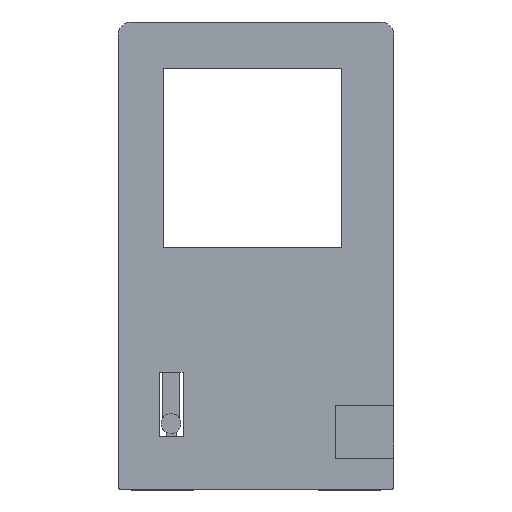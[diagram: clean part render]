
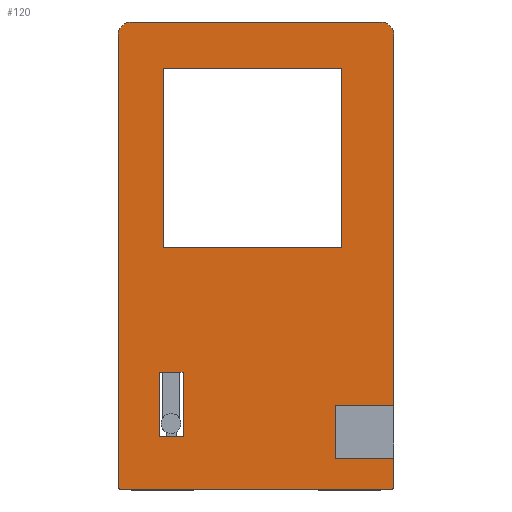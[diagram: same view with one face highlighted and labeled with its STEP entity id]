
A CAD part, top view. The second image highlights one B-rep face of the part: STEP entity #120.
In plain terms, the highlighted planar face has unit normal (0, 0, 1).
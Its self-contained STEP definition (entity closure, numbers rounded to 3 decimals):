
#24 = VERTEX_POINT('',#25);
#25 = CARTESIAN_POINT('',(16.8,-117.8,15.));
#72 = VERTEX_POINT('',#73);
#73 = CARTESIAN_POINT('',(9.5,-117.8,15.));
#79 = EDGE_CURVE('',#24,#72,#80,.T.);
#80 = LINE('',#81,#82);
#81 = CARTESIAN_POINT('',(24.25,-117.8,15.));
#82 = VECTOR('',#83,1.);
#83 = DIRECTION('',(-1.,0.,0.));
#103 = VERTEX_POINT('',#104);
#104 = CARTESIAN_POINT('',(16.8,-98.2,15.));
#110 = EDGE_CURVE('',#24,#103,#111,.T.);
#111 = LINE('',#112,#113);
#112 = CARTESIAN_POINT('',(16.8,-90.502,15.));
#113 = VECTOR('',#114,1.);
#114 = DIRECTION('',(0.,1.,0.));
#120 = ADVANCED_FACE('',(#121,#223,#257),#275,.T.);
#121 = FACE_BOUND('',#122,.T.);
#122 = EDGE_LOOP('',(#123,#133,#142,#150,#159,#167,#175,#183,#191,#199,
    #208,#216));
#123 = ORIENTED_EDGE('',*,*,#124,.F.);
#124 = EDGE_CURVE('',#125,#127,#129,.T.);
#125 = VERTEX_POINT('',#126);
#126 = CARTESIAN_POINT('',(-3.,-132.8,15.));
#127 = VERTEX_POINT('',#128);
#128 = CARTESIAN_POINT('',(-3.,4.4,15.));
#129 = LINE('',#130,#131);
#130 = CARTESIAN_POINT('',(-3.,-130.,15.));
#131 = VECTOR('',#132,1.);
#132 = DIRECTION('',(0.,1.,0.));
#133 = ORIENTED_EDGE('',*,*,#134,.T.);
#134 = EDGE_CURVE('',#125,#135,#137,.T.);
#135 = VERTEX_POINT('',#136);
#136 = CARTESIAN_POINT('',(-1.8,-134.,15.));
#137 = CIRCLE('',#138,1.2);
#138 = AXIS2_PLACEMENT_3D('',#139,#140,#141);
#139 = CARTESIAN_POINT('',(-1.8,-132.8,15.));
#140 = DIRECTION('',(0.,0.,1.));
#141 = DIRECTION('',(1.,0.,0.));
#142 = ORIENTED_EDGE('',*,*,#143,.T.);
#143 = EDGE_CURVE('',#135,#144,#146,.T.);
#144 = VERTEX_POINT('',#145);
#145 = CARTESIAN_POINT('',(79.8,-134.,15.));
#146 = LINE('',#147,#148);
#147 = CARTESIAN_POINT('',(-1.8,-134.,15.));
#148 = VECTOR('',#149,1.);
#149 = DIRECTION('',(1.,0.,0.));
#150 = ORIENTED_EDGE('',*,*,#151,.T.);
#151 = EDGE_CURVE('',#144,#152,#154,.T.);
#152 = VERTEX_POINT('',#153);
#153 = CARTESIAN_POINT('',(81.,-132.8,15.));
#154 = CIRCLE('',#155,1.2);
#155 = AXIS2_PLACEMENT_3D('',#156,#157,#158);
#156 = CARTESIAN_POINT('',(79.8,-132.8,15.));
#157 = DIRECTION('',(0.,0.,1.));
#158 = DIRECTION('',(1.,0.,0.));
#159 = ORIENTED_EDGE('',*,*,#160,.T.);
#160 = EDGE_CURVE('',#152,#161,#163,.T.);
#161 = VERTEX_POINT('',#162);
#162 = CARTESIAN_POINT('',(81.,-124.335,15.));
#163 = LINE('',#164,#165);
#164 = CARTESIAN_POINT('',(81.,-132.8,15.));
#165 = VECTOR('',#166,1.);
#166 = DIRECTION('',(0.,1.,0.));
#167 = ORIENTED_EDGE('',*,*,#168,.T.);
#168 = EDGE_CURVE('',#161,#169,#171,.T.);
#169 = VERTEX_POINT('',#170);
#170 = CARTESIAN_POINT('',(63.15,-124.335,15.));
#171 = LINE('',#172,#173);
#172 = CARTESIAN_POINT('',(50.375,-124.335,15.));
#173 = VECTOR('',#174,1.);
#174 = DIRECTION('',(-1.,0.,0.));
#175 = ORIENTED_EDGE('',*,*,#176,.T.);
#176 = EDGE_CURVE('',#169,#177,#179,.T.);
#177 = VERTEX_POINT('',#178);
#178 = CARTESIAN_POINT('',(63.15,-108.335,15.));
#179 = LINE('',#180,#181);
#180 = CARTESIAN_POINT('',(63.15,-125.735,15.));
#181 = VECTOR('',#182,1.);
#182 = DIRECTION('',(0.,1.,0.));
#183 = ORIENTED_EDGE('',*,*,#184,.F.);
#184 = EDGE_CURVE('',#185,#177,#187,.T.);
#185 = VERTEX_POINT('',#186);
#186 = CARTESIAN_POINT('',(81.,-108.335,15.));
#187 = LINE('',#188,#189);
#188 = CARTESIAN_POINT('',(50.375,-108.335,15.));
#189 = VECTOR('',#190,1.);
#190 = DIRECTION('',(-1.,0.,0.));
#191 = ORIENTED_EDGE('',*,*,#192,.T.);
#192 = EDGE_CURVE('',#185,#193,#195,.T.);
#193 = VERTEX_POINT('',#194);
#194 = CARTESIAN_POINT('',(81.,4.4,15.));
#195 = LINE('',#196,#197);
#196 = CARTESIAN_POINT('',(81.,-132.8,15.));
#197 = VECTOR('',#198,1.);
#198 = DIRECTION('',(0.,1.,0.));
#199 = ORIENTED_EDGE('',*,*,#200,.T.);
#200 = EDGE_CURVE('',#193,#201,#203,.T.);
#201 = VERTEX_POINT('',#202);
#202 = CARTESIAN_POINT('',(77.,8.4,15.));
#203 = CIRCLE('',#204,4.);
#204 = AXIS2_PLACEMENT_3D('',#205,#206,#207);
#205 = CARTESIAN_POINT('',(77.,4.4,15.));
#206 = DIRECTION('',(0.,0.,1.));
#207 = DIRECTION('',(1.,0.,0.));
#208 = ORIENTED_EDGE('',*,*,#209,.F.);
#209 = EDGE_CURVE('',#210,#201,#212,.T.);
#210 = VERTEX_POINT('',#211);
#211 = CARTESIAN_POINT('',(1.,8.4,15.));
#212 = LINE('',#213,#214);
#213 = CARTESIAN_POINT('',(1.,8.4,15.));
#214 = VECTOR('',#215,1.);
#215 = DIRECTION('',(1.,0.,0.));
#216 = ORIENTED_EDGE('',*,*,#217,.T.);
#217 = EDGE_CURVE('',#210,#127,#218,.T.);
#218 = CIRCLE('',#219,4.);
#219 = AXIS2_PLACEMENT_3D('',#220,#221,#222);
#220 = CARTESIAN_POINT('',(1.,4.4,15.));
#221 = DIRECTION('',(0.,0.,1.));
#222 = DIRECTION('',(1.,0.,0.));
#223 = FACE_BOUND('',#224,.T.);
#224 = EDGE_LOOP('',(#225,#235,#243,#251));
#225 = ORIENTED_EDGE('',*,*,#226,.T.);
#226 = EDGE_CURVE('',#227,#229,#231,.T.);
#227 = VERTEX_POINT('',#228);
#228 = CARTESIAN_POINT('',(65.1,-60.2,15.));
#229 = VERTEX_POINT('',#230);
#230 = CARTESIAN_POINT('',(10.7,-60.2,15.));
#231 = LINE('',#232,#233);
#232 = CARTESIAN_POINT('',(24.85,-60.2,15.));
#233 = VECTOR('',#234,1.);
#234 = DIRECTION('',(-1.,0.,0.));
#235 = ORIENTED_EDGE('',*,*,#236,.T.);
#236 = EDGE_CURVE('',#229,#237,#239,.T.);
#237 = VERTEX_POINT('',#238);
#238 = CARTESIAN_POINT('',(10.7,-5.8,15.));
#239 = LINE('',#240,#241);
#240 = CARTESIAN_POINT('',(10.7,-61.702,15.));
#241 = VECTOR('',#242,1.);
#242 = DIRECTION('',(0.,1.,0.));
#243 = ORIENTED_EDGE('',*,*,#244,.F.);
#244 = EDGE_CURVE('',#245,#237,#247,.T.);
#245 = VERTEX_POINT('',#246);
#246 = CARTESIAN_POINT('',(65.1,-5.8,15.));
#247 = LINE('',#248,#249);
#248 = CARTESIAN_POINT('',(24.85,-5.8,15.));
#249 = VECTOR('',#250,1.);
#250 = DIRECTION('',(-1.,0.,0.));
#251 = ORIENTED_EDGE('',*,*,#252,.F.);
#252 = EDGE_CURVE('',#227,#245,#253,.T.);
#253 = LINE('',#254,#255);
#254 = CARTESIAN_POINT('',(65.1,-61.702,15.));
#255 = VECTOR('',#256,1.);
#256 = DIRECTION('',(0.,1.,0.));
#257 = FACE_BOUND('',#258,.T.);
#258 = EDGE_LOOP('',(#259,#260,#268,#274));
#259 = ORIENTED_EDGE('',*,*,#79,.T.);
#260 = ORIENTED_EDGE('',*,*,#261,.T.);
#261 = EDGE_CURVE('',#72,#262,#264,.T.);
#262 = VERTEX_POINT('',#263);
#263 = CARTESIAN_POINT('',(9.5,-98.2,15.));
#264 = LINE('',#265,#266);
#265 = CARTESIAN_POINT('',(9.5,-90.502,15.));
#266 = VECTOR('',#267,1.);
#267 = DIRECTION('',(0.,1.,0.));
#268 = ORIENTED_EDGE('',*,*,#269,.F.);
#269 = EDGE_CURVE('',#103,#262,#270,.T.);
#270 = LINE('',#271,#272);
#271 = CARTESIAN_POINT('',(24.25,-98.2,15.));
#272 = VECTOR('',#273,1.);
#273 = DIRECTION('',(-1.,0.,0.));
#274 = ORIENTED_EDGE('',*,*,#110,.F.);
#275 = PLANE('',#276);
#276 = AXIS2_PLACEMENT_3D('',#277,#278,#279);
#277 = CARTESIAN_POINT('',(40.85,-67.124,15.));
#278 = DIRECTION('',(0.,0.,1.));
#279 = DIRECTION('',(1.,0.,0.));
